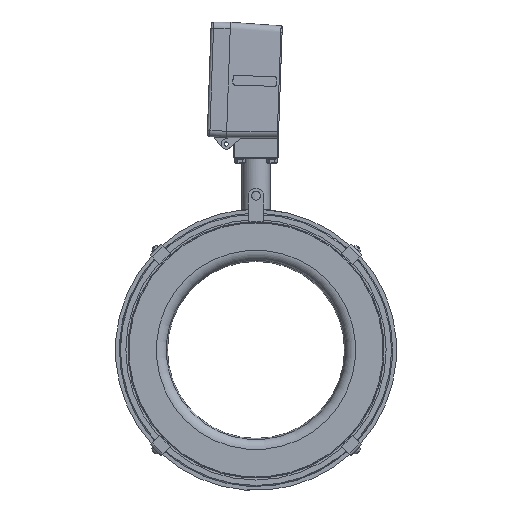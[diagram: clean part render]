
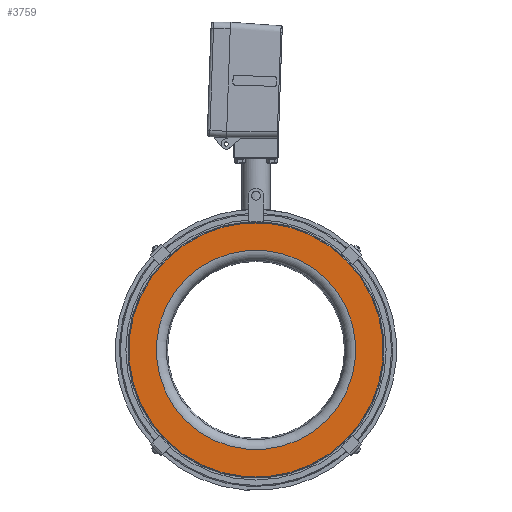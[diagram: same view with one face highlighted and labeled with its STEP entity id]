
A CAD part, left-side view. The second image highlights one B-rep face of the part: STEP entity #3759.
In plain terms, the highlighted planar face has unit normal (-1, 0, 0).
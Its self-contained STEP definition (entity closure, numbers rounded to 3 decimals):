
#3759=ADVANCED_FACE('',(#11803,#11805),#11807,.T.);
#11803=FACE_BOUND('',#11804,.T.);
#11804=EDGE_LOOP('',(#26465));
#11805=FACE_BOUND('',#11806,.T.);
#11806=EDGE_LOOP('',(#26466));
#11807=PLANE('',#11808);
#11808=AXIS2_PLACEMENT_3D('',#11809,#11810,#11811);
#11809=CARTESIAN_POINT('',(-119.,0.,0.));
#11810=DIRECTION('',(-1.,0.,0.));
#11811=DIRECTION('',(0.,0.707,-0.707));
#26465=ORIENTED_EDGE('',*,*,#30892,.T.);
#26466=ORIENTED_EDGE('',*,*,#30891,.F.);
#30891=EDGE_CURVE('',#34287,#34287,#34288,.T.);
#30892=EDGE_CURVE('',#34289,#34289,#34290,.T.);
#34287=VERTEX_POINT('',#43627);
#34288=CIRCLE('',#43628,77.746);
#34289=VERTEX_POINT('',#43632);
#34290=CIRCLE('',#43633,99.2);
#43627=CARTESIAN_POINT('',(-119.,54.975,-54.975));
#43628=AXIS2_PLACEMENT_3D('',#43629,#43630,#43631);
#43629=CARTESIAN_POINT('',(-119.,0.,0.));
#43630=DIRECTION('',(-1.,0.,0.));
#43631=DIRECTION('',(0.,0.707,-0.707));
#43632=CARTESIAN_POINT('',(-119.,70.145,-70.145));
#43633=AXIS2_PLACEMENT_3D('',#43634,#43635,#43636);
#43634=CARTESIAN_POINT('',(-119.,0.,0.));
#43635=DIRECTION('',(-1.,0.,0.));
#43636=DIRECTION('',(0.,0.707,-0.707));
